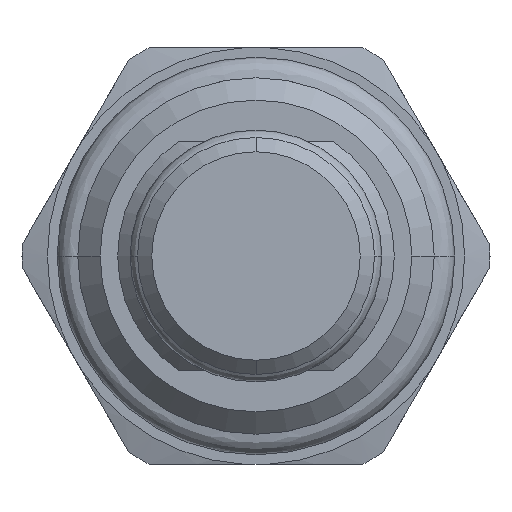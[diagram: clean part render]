
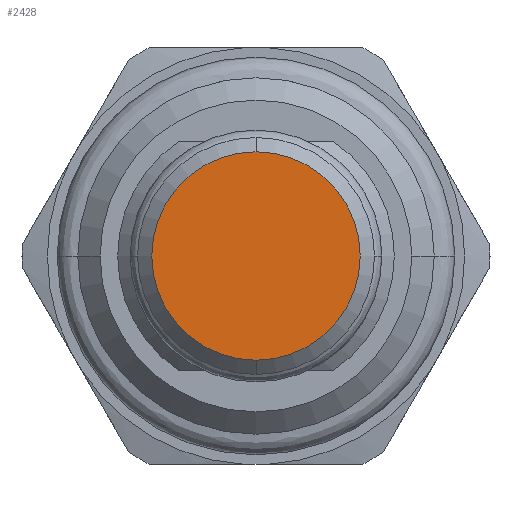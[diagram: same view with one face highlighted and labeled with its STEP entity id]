
A CAD part, front view. The second image highlights one B-rep face of the part: STEP entity #2428.
In plain terms, the highlighted planar face has unit normal (0, -1, 0).
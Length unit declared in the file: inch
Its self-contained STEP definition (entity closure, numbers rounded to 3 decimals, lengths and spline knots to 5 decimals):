
#1067=CARTESIAN_POINT('',(0.,-1.091,0.));
#1068=DIRECTION('',(0.,-1.,0.));
#1069=DIRECTION('',(0.,0.,-1.));
#1070=AXIS2_PLACEMENT_3D('',#1067,#1068,#1069);
#1077=CARTESIAN_POINT('',(0.,-1.091,0.));
#1078=DIRECTION('',(0.,-1.,0.));
#1079=DIRECTION('',(0.,0.,1.));
#1080=AXIS2_PLACEMENT_3D('',#1077,#1078,#1079);
#1161=CARTESIAN_POINT('',(0.,-1.091,-0.2185));
#1162=CARTESIAN_POINT('',(0.,-1.091,0.2185));
#1163=VERTEX_POINT('',#1161);
#1164=VERTEX_POINT('',#1162);
#2418=CARTESIAN_POINT('',(0.,-1.091,0.));
#2419=DIRECTION('',(0.,-1.,0.));
#2420=DIRECTION('',(0.,0.,1.));
#2421=AXIS2_PLACEMENT_3D('',#2418,#2419,#2420);
#2422=PLANE('',#2421);
#2424=ORIENTED_EDGE('',*,*,#2423,.F.);
#2425=ORIENTED_EDGE('',*,*,#2408,.F.);
#2426=EDGE_LOOP('',(#2424,#2425));
#2427=FACE_OUTER_BOUND('',#2426,.F.);
#2428=ADVANCED_FACE('',(#2427),#2422,.T.);
#1071=CIRCLE('',#1070,0.2185);
#1081=CIRCLE('',#1080,0.2185);
#2408=EDGE_CURVE('',#1163,#1164,#1071,.T.);
#2423=EDGE_CURVE('',#1164,#1163,#1081,.T.);
